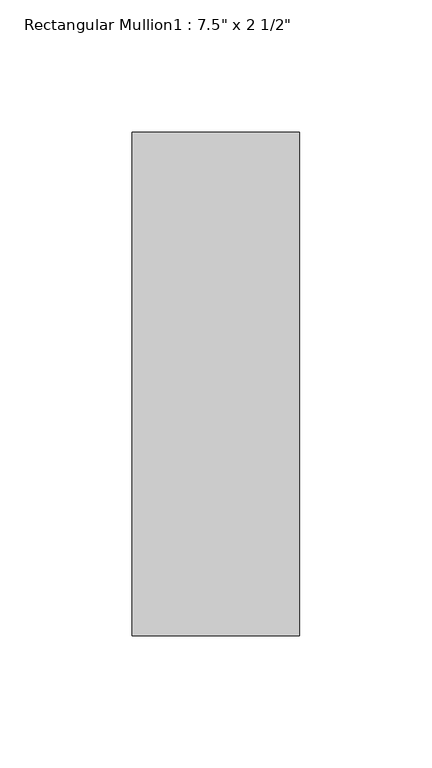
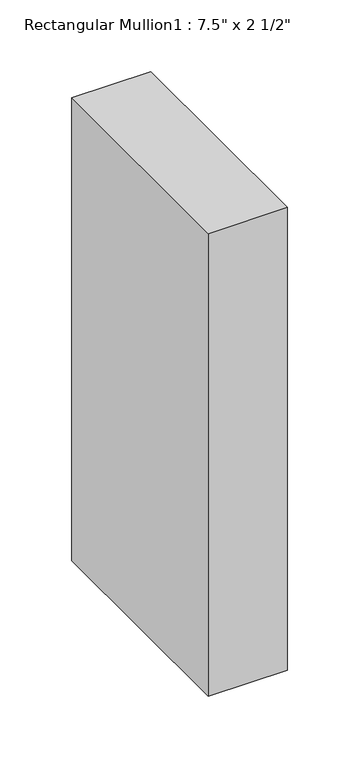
"""IFC4 building model written with IfcOpenShell, lengths in millimetres: member geometry."""

from ifc_helpers import new_model, si_unit, frame, origin, place, context, project, spatial, polyline, outline, extrude, source, transform, mapped, element, save


def member_8d3e7027(model_context):
    return source(origin(), model_context, "Body", "SweptSolid", [
        extrude(outline(polyline([(31.75, 165.1), (31.75, -25.4), (-31.75, -25.4), (-31.75, 165.1), (31.75, 165.1)])), frame((0.0, 0.0, -393.7), z_axis=(0.0, 0.0, 1.0), x_axis=(1.0, 0.0, 0.0)), (0.0, 0.0, 1.0), 393.7),
    ])


if __name__ == "__main__":
    model = new_model("IFC4")
    model_context = context("Model", 3, world=origin())
    ifc_project = project(units=[si_unit("LENGTHUNIT", "METRE", prefix="MILLI")], contexts=[model_context])
    site = spatial("IfcSite", under=ifc_project)
    building = spatial("IfcBuilding", under=site)
    placement = place(None, origin())
    member_shape = member_8d3e7027(model_context)
    element("IfcMember", 1, ObjectType="Rectangular Mullion1 : 7.5\" x 2 1/2\"", at=placement, inside=building, context=model_context, shape_type="MappedRepresentation", body=[
        mapped(member_shape, transform((0.0, 0.0, 0.0), x_axis=(1.0, 0.0, 0.0), y_axis=(0.0, 1.0, 0.0), z_axis=(0.0, 0.0, 1.0))),
    ])
    save(model, "model.ifc")
